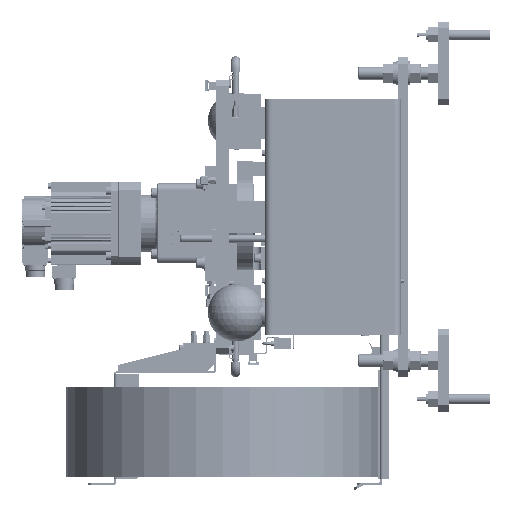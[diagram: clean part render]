
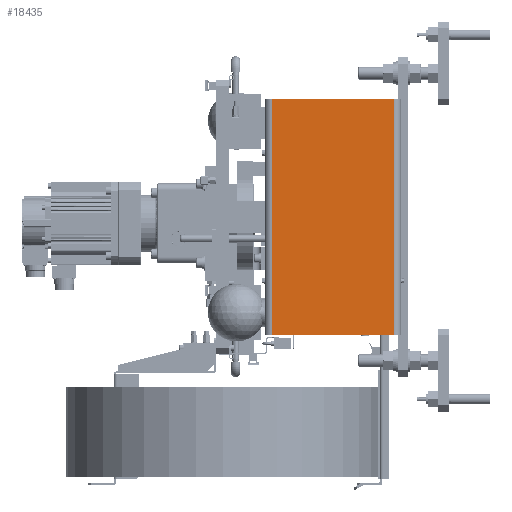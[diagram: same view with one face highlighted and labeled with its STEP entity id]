
A CAD part, left-side view. The second image highlights one B-rep face of the part: STEP entity #18435.
In plain terms, the highlighted planar face has unit normal (-1, 0, 0).
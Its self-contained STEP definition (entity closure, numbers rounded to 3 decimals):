
#3010 = LINE ( 'NONE', #102315, #158269 ) ;
#12964 = LINE ( 'NONE', #14782, #82599 ) ;
#14782 = CARTESIAN_POINT ( 'NONE',  ( -63., 10.8, 185. ) ) ;
#17591 = EDGE_CURVE ( 'NONE', #27532, #57190, #74562, .T. ) ;
#18435 = ADVANCED_FACE ( 'NONE', ( #31128 ), #61726, .F. ) ;
#27532 = VERTEX_POINT ( 'NONE', #96234 ) ;
#31128 = FACE_OUTER_BOUND ( 'NONE', #82649, .T. ) ;
#43440 = CARTESIAN_POINT ( 'NONE',  ( -63., 10.8, -185. ) ) ;
#46475 = ORIENTED_EDGE ( 'NONE', *, *, #96552, .F. ) ;
#53306 = VECTOR ( 'NONE', #131238, 1000. ) ;
#56644 = ORIENTED_EDGE ( 'NONE', *, *, #90303, .T. ) ;
#57190 = VERTEX_POINT ( 'NONE', #43440 ) ;
#57998 = ORIENTED_EDGE ( 'NONE', *, *, #91927, .T. ) ;
#59843 = CARTESIAN_POINT ( 'NONE',  ( -63., 10.8, 185. ) ) ;
#61726 = PLANE ( 'NONE',  #147146 ) ;
#74562 = LINE ( 'NONE', #173948, #53306 ) ;
#82599 = VECTOR ( 'NONE', #101076, 1000. ) ;
#82649 = EDGE_LOOP ( 'NONE', ( #57998, #175723, #46475, #56644 ) ) ;
#83996 = DIRECTION ( 'NONE',  ( 0., 0., -1. ) ) ;
#86735 = VECTOR ( 'NONE', #83996, 1000. ) ;
#90303 = EDGE_CURVE ( 'NONE', #168842, #118446, #141507, .T. ) ;
#91927 = EDGE_CURVE ( 'NONE', #118446, #57190, #3010, .T. ) ;
#96234 = CARTESIAN_POINT ( 'NONE',  ( -63., 10.8, 185. ) ) ;
#96552 = EDGE_CURVE ( 'NONE', #168842, #27532, #12964, .T. ) ;
#101076 = DIRECTION ( 'NONE',  ( 0., -1., 0. ) ) ;
#102315 = CARTESIAN_POINT ( 'NONE',  ( -63., 10.8, -185. ) ) ;
#118446 = VERTEX_POINT ( 'NONE', #122519 ) ;
#118461 = CARTESIAN_POINT ( 'NONE',  ( -63., 202.2, 185. ) ) ;
#122519 = CARTESIAN_POINT ( 'NONE',  ( -63., 202.2, -185. ) ) ;
#124906 = CARTESIAN_POINT ( 'NONE',  ( -63., 202.2, 185. ) ) ;
#131101 = DIRECTION ( 'NONE',  ( 0., -1., 0. ) ) ;
#131238 = DIRECTION ( 'NONE',  ( 0., 0., -1. ) ) ;
#131391 = DIRECTION ( 'NONE',  ( 0., 1., 0. ) ) ;
#141507 = LINE ( 'NONE', #124906, #86735 ) ;
#147146 = AXIS2_PLACEMENT_3D ( 'NONE', #59843, #175062, #131391 ) ;
#158269 = VECTOR ( 'NONE', #131101, 1000. ) ;
#168842 = VERTEX_POINT ( 'NONE', #118461 ) ;
#173948 = CARTESIAN_POINT ( 'NONE',  ( -63., 10.8, 185. ) ) ;
#175062 = DIRECTION ( 'NONE',  ( 1., 0., 0. ) ) ;
#175723 = ORIENTED_EDGE ( 'NONE', *, *, #17591, .F. ) ;
